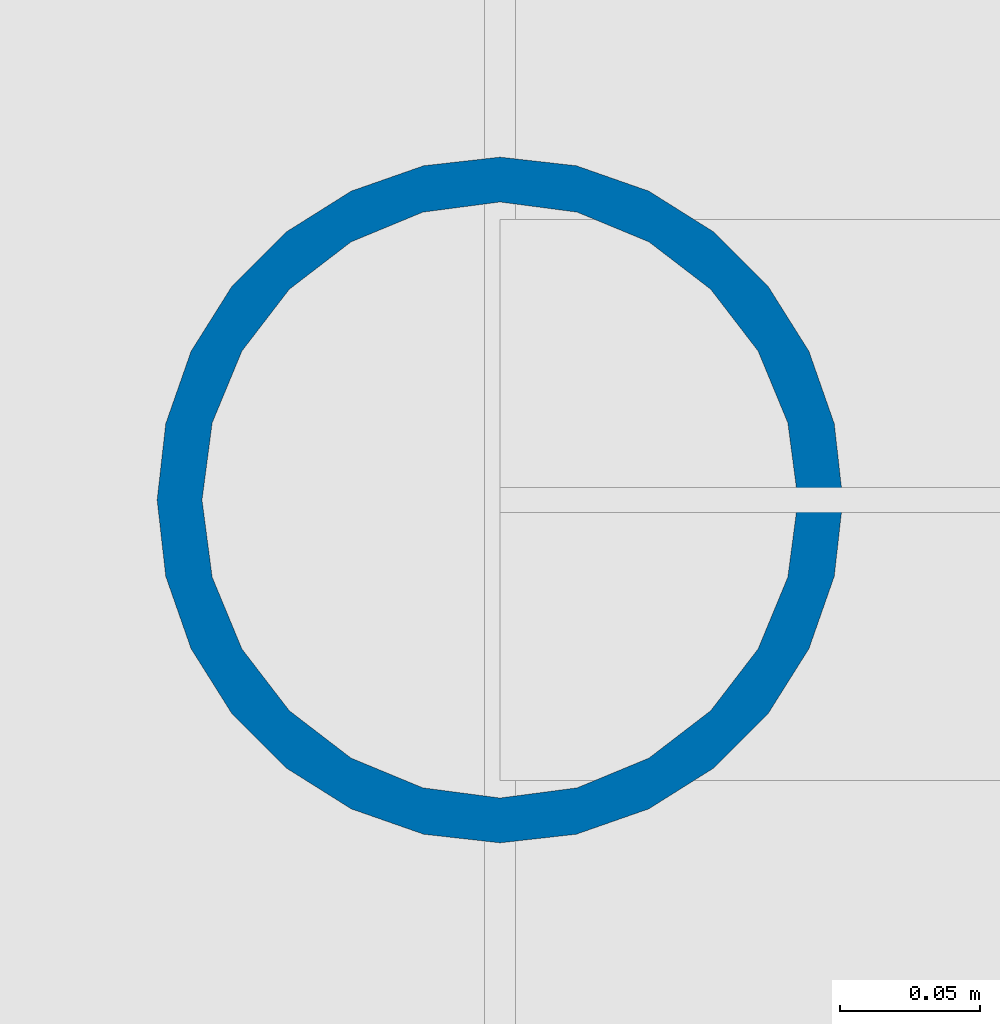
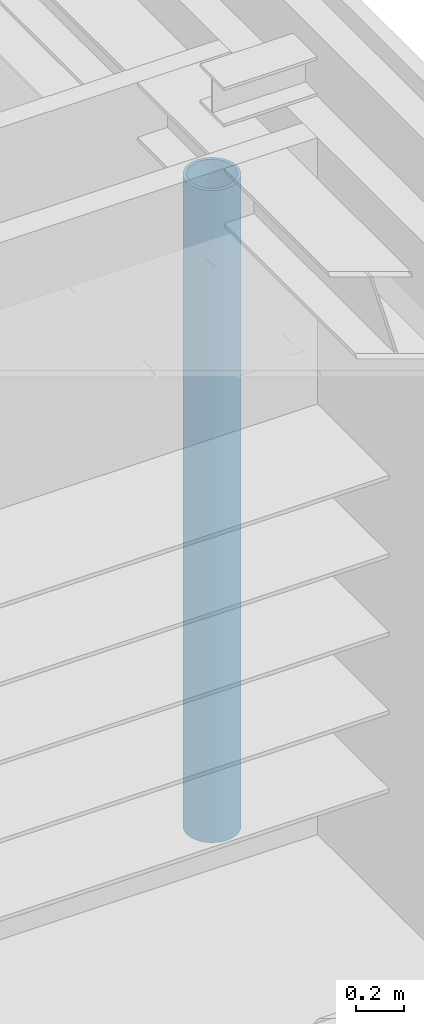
# One storey, part 14 of 260: 1 column.
"""IFC2X3 building model written with IfcOpenShell, lengths in millimetres."""

from ifc_helpers import new_model, entity, si_unit, converted_unit, derived_unit, money_unit, direction, frame, origin_with_axes, place, context, subcontext, project, spatial, faceted_brep, material, type_object, element, save


model = new_model("IFC2X3")

# Units and contexts
model_context = context("Model", 3, precision=0.01, world=origin_with_axes(), true_north=direction((0.0, 1.0)))
plan_context = context("Plan", 3, precision=0.01, world=origin_with_axes(), true_north=direction((0.0, 1.0)))
body_context = subcontext(model_context, "Body", "Model", "MODEL_VIEW")
ifc_project = project(units=[si_unit("LENGTHUNIT", "METRE", prefix="MILLI"), si_unit("AREAUNIT", "SQUARE_METRE"), si_unit("VOLUMEUNIT", "CUBIC_METRE"), converted_unit("PLANEANGLEUNIT", "DEGREE", entity("IfcPlaneAngleMeasure", 0.0174532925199), si_unit("PLANEANGLEUNIT", "RADIAN"), dimensions=[0, 0, 0, 0, 0, 0, 0]), money_unit("EUR"), converted_unit("TIMEUNIT", "Year", entity("IfcTimeMeasure", 31556926.0), si_unit("TIMEUNIT", "SECOND"), dimensions=[0, 0, 1, 0, 0, 0, 0]), si_unit("MASSUNIT", "GRAM", prefix="KILO"), si_unit("THERMODYNAMICTEMPERATUREUNIT", "DEGREE_CELSIUS"), si_unit("LUMINOUSINTENSITYUNIT", "LUMEN"), si_unit("ENERGYUNIT", "JOULE", prefix="MEGA"), derived_unit("THERMALCONDUCTANCEUNIT", [(si_unit("POWERUNIT", "WATT"), 1), (si_unit("LENGTHUNIT", "METRE"), -1), (si_unit("THERMODYNAMICTEMPERATUREUNIT", "KELVIN"), -1)]), derived_unit("SPECIFICHEATCAPACITYUNIT", [(si_unit("ENERGYUNIT", "JOULE"), 1), (si_unit("MASSUNIT", "GRAM", prefix="KILO"), -1), (si_unit("THERMODYNAMICTEMPERATUREUNIT", "KELVIN"), -1)]), derived_unit("MASSDENSITYUNIT", [(si_unit("MASSUNIT", "GRAM", prefix="KILO"), 1), (si_unit("VOLUMEUNIT", "CUBIC_METRE"), -1)])], contexts=[model_context, plan_context])

# Site, building, storey
site_placement = place(None, origin_with_axes())
site = spatial("IfcSite", under=ifc_project, at=site_placement, Name="Site", CompositionType="ELEMENT")
building_placement = place(site_placement, origin_with_axes())
building = spatial("IfcBuilding", under=site, at=building_placement, Name="Naam gebouw", CompositionType="ELEMENT")
storey_placement = place(building_placement, frame((0.0, 0.0, 3960.0), z_axis=(0.0, 0.0, 1.0), x_axis=(1.0, 0.0, 0.0)))
storey = spatial("IfcBuildingStorey", under=building, at=storey_placement, Name="verdieping", CompositionType="ELEMENT", Elevation=3960.0)

# Column
ifc_material = material(Name="Metaal - Staal C wit")
column_type = type_object("IfcColumnType", Name="Lucht D245", PredefinedType="COLUMN")
column_placement = place(storey_placement, frame((55575.0, 39325.0, -70.0), z_axis=(0.0, 0.0, 1.0), x_axis=(1.0, 0.0, 0.0)))
element("IfcColumn", 1, at=column_placement, inside=storey, type_object=column_type, material=ifc_material, Name="28_kolom ø 273mm", ObjectType="COLUMN", context=body_context, shape_type="Brep", body=[
    faceted_brep([(-122.25, 0.0, 0.0), (-119.184937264, -27.2031841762, 0.0), (-119.184937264, -27.2031841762, 3330.0), (-122.25, 0.0, 3330.0), (-119.184937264, 27.2031841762, 0.0), (-110.143444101, 53.0422871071, 0.0), (-95.5788987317, 76.2216282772, 0.0), (-76.2216282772, 95.5788987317, 0.0), (-53.0422871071, 110.143444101, 0.0), (-27.2031841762, 119.184937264, 0.0), (0.0, 122.25, 0.0), (27.2031841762, 119.184937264, 0.0), (53.0422871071, 110.143444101, 0.0), (76.2216282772, 95.5788987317, 0.0), (95.5788987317, 76.2216282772, 0.0), (110.143444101, 53.0422871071, 0.0), (119.184937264, 27.2031841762, 0.0), (122.25, 0.0, 0.0), (119.184937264, -27.2031841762, 0.0), (110.143444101, -53.0422871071, 0.0), (95.5788987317, -76.2216282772, 0.0), (76.2216282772, -95.5788987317, 0.0), (53.0422871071, -110.143444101, 0.0), (27.2031841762, -119.184937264, 0.0), (0.0, -122.25, 0.0), (-27.2031841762, -119.184937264, 0.0), (-53.0422871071, -110.143444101, 0.0), (-76.2216282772, -95.5788987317, 0.0), (-95.5788987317, -76.2216282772, 0.0), (-110.143444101, -53.0422871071, 0.0), (-106.25, 0.0, 0.0), (-102.629619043, -27.4995235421, 0.0), (-92.0151991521, -53.125, 0.0), (-75.1300955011, -75.1300955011, 0.0), (-53.125, -92.0151991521, 0.0), (-27.4995235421, -102.629619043, 0.0), (0.0, -106.25, 0.0), (27.4995235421, -102.629619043, 0.0), (53.125, -92.0151991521, 0.0), (75.1300955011, -75.1300955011, 0.0), (92.0151991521, -53.125, 0.0), (102.629619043, -27.4995235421, 0.0), (106.25, 0.0, 0.0), (102.629619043, 27.4995235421, 0.0), (92.0151991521, 53.125, 0.0), (75.1300955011, 75.1300955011, 0.0), (53.125, 92.0151991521, 0.0), (27.4995235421, 102.629619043, 0.0), (0.0, 106.25, 0.0), (-27.4995235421, 102.629619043, 0.0), (-53.125, 92.0151991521, 0.0), (-75.1300955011, 75.1300955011, 0.0), (-92.0151991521, 53.125, 0.0), (-102.629619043, 27.4995235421, 0.0), (-110.143444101, -53.0422871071, 3330.0), (-95.5788987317, -76.2216282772, 3330.0), (-76.2216282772, -95.5788987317, 3330.0), (-53.0422871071, -110.143444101, 3330.0), (-27.2031841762, -119.184937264, 3330.0), (0.0, -122.25, 3330.0), (27.2031841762, -119.184937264, 3330.0), (53.0422871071, -110.143444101, 3330.0), (76.2216282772, -95.5788987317, 3330.0), (95.5788987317, -76.2216282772, 3330.0), (110.143444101, -53.0422871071, 3330.0), (119.184937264, -27.2031841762, 3330.0), (122.25, 0.0, 3330.0), (119.184937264, 27.2031841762, 3330.0), (110.143444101, 53.0422871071, 3330.0), (95.5788987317, 76.2216282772, 3330.0), (76.2216282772, 95.5788987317, 3330.0), (53.0422871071, 110.143444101, 3330.0), (27.2031841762, 119.184937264, 3330.0), (0.0, 122.25, 3330.0), (-27.2031841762, 119.184937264, 3330.0), (-53.0422871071, 110.143444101, 3330.0), (-76.2216282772, 95.5788987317, 3330.0), (-95.5788987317, 76.2216282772, 3330.0), (-110.143444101, 53.0422871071, 3330.0), (-119.184937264, 27.2031841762, 3330.0), (-106.25, 0.0, 3330.0), (-102.629619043, 27.4995235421, 3330.0), (-92.0151991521, 53.125, 3330.0), (-75.1300955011, 75.1300955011, 3330.0), (-53.125, 92.0151991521, 3330.0), (-27.4995235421, 102.629619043, 3330.0), (0.0, 106.25, 3330.0), (27.4995235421, 102.629619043, 3330.0), (53.125, 92.0151991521, 3330.0), (75.1300955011, 75.1300955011, 3330.0), (92.0151991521, 53.125, 3330.0), (102.629619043, 27.4995235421, 3330.0), (106.25, 0.0, 3330.0), (102.629619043, -27.4995235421, 3330.0), (92.0151991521, -53.125, 3330.0), (75.1300955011, -75.1300955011, 3330.0), (53.125, -92.0151991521, 3330.0), (27.4995235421, -102.629619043, 3330.0), (0.0, -106.25, 3330.0), (-27.4995235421, -102.629619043, 3330.0), (-53.125, -92.0151991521, 3330.0), (-75.1300955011, -75.1300955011, 3330.0), (-92.0151991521, -53.125, 3330.0), (-102.629619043, -27.4995235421, 3330.0)], [[[0, 1, 2, 3]], [[0, 4, 5, 6, 7, 8, 9, 10, 11, 12, 13, 14, 15, 16, 17, 18, 19, 20, 21, 22, 23, 24, 25, 26, 27, 28, 29, 1], [30, 31, 32, 33, 34, 35, 36, 37, 38, 39, 40, 41, 42, 43, 44, 45, 46, 47, 48, 49, 50, 51, 52, 53]], [[1, 29, 54, 2]], [[3, 2, 54, 55, 56, 57, 58, 59, 60, 61, 62, 63, 64, 65, 66, 67, 68, 69, 70, 71, 72, 73, 74, 75, 76, 77, 78, 79], [80, 81, 82, 83, 84, 85, 86, 87, 88, 89, 90, 91, 92, 93, 94, 95, 96, 97, 98, 99, 100, 101, 102, 103]], [[4, 0, 3, 79]], [[5, 4, 79, 78]], [[6, 5, 78, 77]], [[7, 6, 77, 76]], [[8, 7, 76, 75]], [[9, 8, 75, 74]], [[10, 9, 74, 73]], [[11, 10, 73, 72]], [[12, 11, 72, 71]], [[13, 12, 71, 70]], [[14, 13, 70, 69]], [[15, 14, 69, 68]], [[16, 15, 68, 67]], [[17, 16, 67, 66]], [[18, 17, 66, 65]], [[19, 18, 65, 64]], [[20, 19, 64, 63]], [[21, 20, 63, 62]], [[22, 21, 62, 61]], [[23, 22, 61, 60]], [[24, 23, 60, 59]], [[25, 24, 59, 58]], [[26, 25, 58, 57]], [[27, 26, 57, 56]], [[28, 27, 56, 55]], [[29, 28, 55, 54]], [[31, 30, 80, 103]], [[32, 31, 103, 102]], [[33, 32, 102, 101]], [[34, 33, 101, 100]], [[35, 34, 100, 99]], [[36, 35, 99, 98]], [[37, 36, 98, 97]], [[38, 37, 97, 96]], [[39, 38, 96, 95]], [[40, 39, 95, 94]], [[41, 40, 94, 93]], [[42, 41, 93, 92]], [[43, 42, 92, 91]], [[44, 43, 91, 90]], [[45, 44, 90, 89]], [[46, 45, 89, 88]], [[47, 46, 88, 87]], [[48, 47, 87, 86]], [[49, 48, 86, 85]], [[50, 49, 85, 84]], [[51, 50, 84, 83]], [[52, 51, 83, 82]], [[53, 52, 82, 81]], [[30, 53, 81, 80]]]),
])

save(model, "model.ifc")
